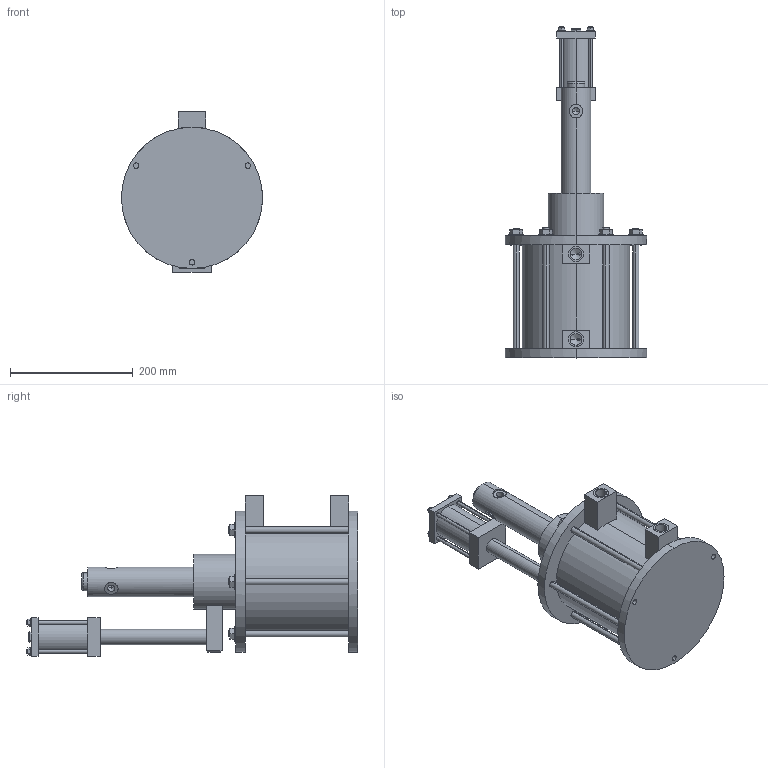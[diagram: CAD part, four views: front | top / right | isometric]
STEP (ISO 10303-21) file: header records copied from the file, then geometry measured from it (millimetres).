
FILE_DESCRIPTION (( 'STEP AP203' ), '1' );
FILE_NAME ('6110-204.STEP', '2016-01-29T10:37:51', ( '' ), ( '' ), 'SwSTEP 2.0', 'SolidWorks 2015', '' );
FILE_SCHEMA (( 'CONFIG_CONTROL_DESIGN' ));
Length unit declared in the file: millimetre
Products named in the file (1): 6110-204
Bounding box: 230 x 540.89 x 262 mm (x, y, z)
Volume: 2783313.6 mm3; surface area: 547386.1 mm2
Topology: 1 solids, 3 shells, 296 faces, 700 edges, 450 vertices
Faces by surface type: plane 160, cylinder 112, cone 22, torus 2
Entity records: 9159 total; most frequent: CARTESIAN_POINT 2091, DIRECTION 1490, ORIENTED_EDGE 1376, EDGE_CURVE 688, AXIS2_PLACEMENT_3D 539, VERTEX_POINT 450, VECTOR 412, LINE 412
